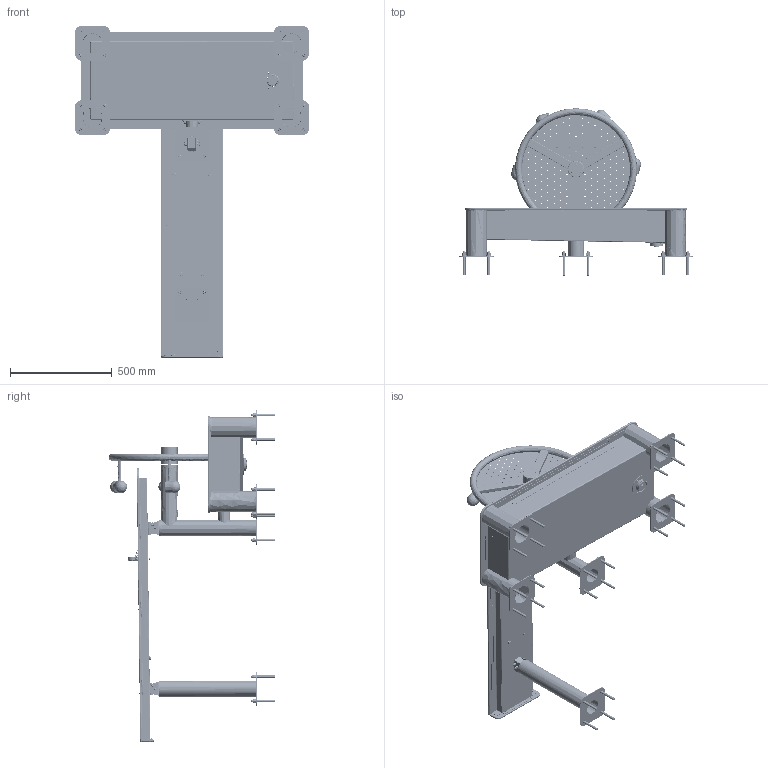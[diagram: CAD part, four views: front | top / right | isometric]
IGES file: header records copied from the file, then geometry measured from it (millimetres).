
Start section: SolidWorks IGES file using analytic representation for surfaces
Global section: file name: C:\Users\user18\OneDrive - KBT\Pulpit\KORONA-KOPIA\Water_Arek_Karol\XXX. Basic Water System\570.205.010.01x Water wheel\11. Modele 3D dla klientów\570.205.010.011 - Water wheel FA.IGS; native system: SolidWorks 2018; preprocessor: SolidWorks 2018; author: user18; date: 210325.091606; units: millimetre
Bounding box: 1148 x 820.35 x 1631.5 mm (x, y, z)
Surface area: 6109530.1 mm2 (no closed solid volume)
Topology: 0 solids, 0 shells, 2201 faces, 35293 edges, 35233 vertices
Faces by surface type: revolution 1254, bspline 947
